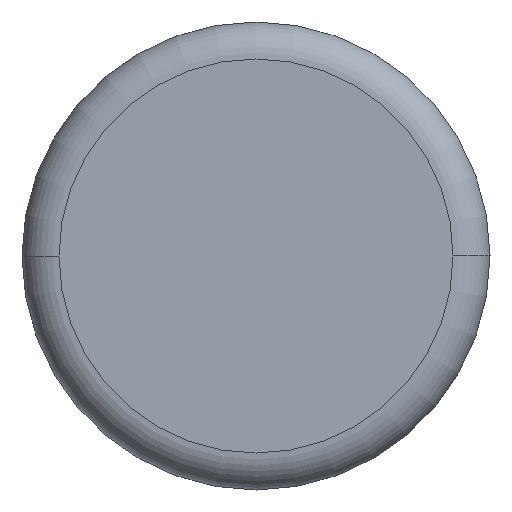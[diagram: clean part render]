
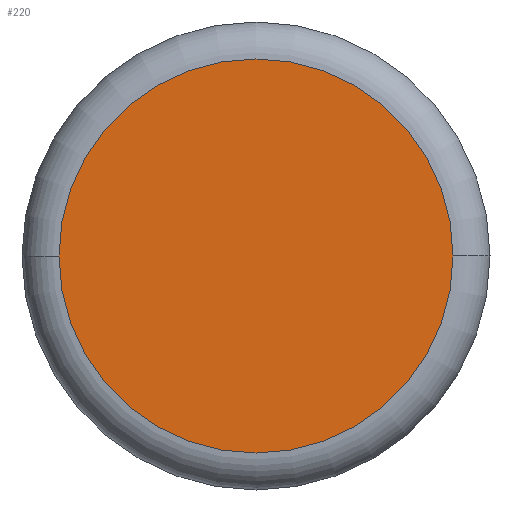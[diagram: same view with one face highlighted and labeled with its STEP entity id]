
A CAD part, front view. The second image highlights one B-rep face of the part: STEP entity #220.
In plain terms, the highlighted planar face has unit normal (0, -1, 0).
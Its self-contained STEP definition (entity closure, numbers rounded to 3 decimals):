
#10 = VERTEX_POINT ( 'NONE', #80 ) ;
#80 = CARTESIAN_POINT ( 'NONE',  ( 8., -5.5, 0. ) ) ;
#149 = DIRECTION ( 'NONE',  ( 0., 1., 0. ) ) ;
#170 = DIRECTION ( 'NONE',  ( -1., 0., 0. ) ) ;
#220 = ADVANCED_FACE ( 'NONE', ( #1280 ), #759, .T. ) ;
#476 = AXIS2_PLACEMENT_3D ( 'NONE', #1068, #1062, #1039 ) ;
#628 = ORIENTED_EDGE ( 'NONE', *, *, #1318, .F. ) ;
#640 = CIRCLE ( 'NONE', #1630, 8. ) ;
#718 = AXIS2_PLACEMENT_3D ( 'NONE', #1403, #149, #170 ) ;
#759 = PLANE ( 'NONE',  #476 ) ;
#773 = ORIENTED_EDGE ( 'NONE', *, *, #1636, .F. ) ;
#837 = CARTESIAN_POINT ( 'NONE',  ( 0., -5.5, 0. ) ) ;
#1014 = VERTEX_POINT ( 'NONE', #1520 ) ;
#1039 = DIRECTION ( 'NONE',  ( 1., 0., 0. ) ) ;
#1062 = DIRECTION ( 'NONE',  ( 0., -1., 0. ) ) ;
#1068 = CARTESIAN_POINT ( 'NONE',  ( -8., -5.5, 0. ) ) ;
#1280 = FACE_OUTER_BOUND ( 'NONE', #1481, .T. ) ;
#1318 = EDGE_CURVE ( 'NONE', #1014, #10, #1452, .T. ) ;
#1403 = CARTESIAN_POINT ( 'NONE',  ( 0., -5.5, 0. ) ) ;
#1452 = CIRCLE ( 'NONE', #718, 8. ) ;
#1481 = EDGE_LOOP ( 'NONE', ( #628, #773 ) ) ;
#1520 = CARTESIAN_POINT ( 'NONE',  ( -8., -5.5, 0. ) ) ;
#1615 = DIRECTION ( 'NONE',  ( -1., 0., 0. ) ) ;
#1630 = AXIS2_PLACEMENT_3D ( 'NONE', #837, #1760, #1615 ) ;
#1636 = EDGE_CURVE ( 'NONE', #10, #1014, #640, .T. ) ;
#1760 = DIRECTION ( 'NONE',  ( 0., 1., 0. ) ) ;
